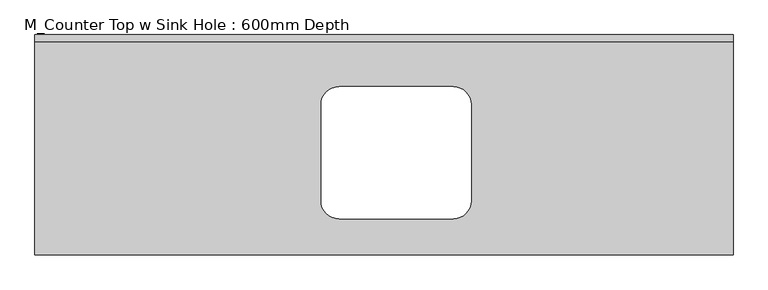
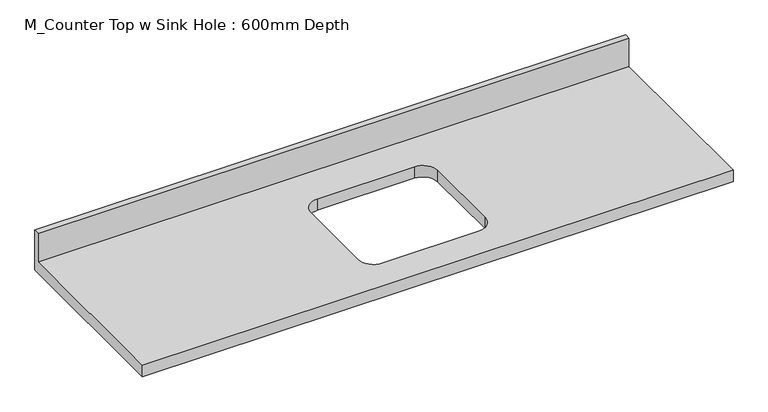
"""IFC4 building model written with IfcOpenShell, lengths in millimetres: furniture geometry, M_Counter Top w Sink Hole : 600mm Depth."""

from ifc_helpers import new_model, si_unit, frame, origin, place, context, project, spatial, polyline, circle_curve, source, transform, mapped, element, save
from ifc_brep_helpers import plane_surface, revolved_surface, advanced_brep


def m_counter_top_w_sink_hole_600mm_depth_5db41418(model_context):
    return source(origin(), model_context, "Body", "AdvancedBrep", [
        advanced_brep(
        [(-1200.4622951, -625.0, 900.0), (781.0377049, -625.0, 900.0), (781.0377049, -19.05, 900.0), (-1200.4622951, -19.05, 900.0), (-337.3622951, -147.3, 900.0), (-13.5622951, -147.3, 900.0), (37.2377049, -198.1, 900.0), (37.2377049, -471.9, 900.0), (-13.5622951, -522.7, 900.0), (-337.3622951, -522.7, 900.0), (-388.1622951, -471.9, 900.0), (-388.1622951, -198.1, 900.0), (781.0377049, 0.0, 860.0), (781.0377049, -625.0, 860.0), (-1200.4622951, -625.0, 860.0), (-1200.4622951, 0.0, 860.0), (-13.5622951, -147.3, 860.0), (-337.3622951, -147.3, 860.0), (-388.1622951, -198.1, 860.0), (-388.1622951, -471.9, 860.0), (-337.3622951, -522.7, 860.0), (-13.5622951, -522.7, 860.0), (37.2377049, -471.9, 860.0), (37.2377049, -198.1, 860.0), (-1200.4622951, 0.0, 1001.6), (781.0377049, 0.0, 1001.6), (-1200.4622951, -19.05, 1001.6), (781.0377049, -19.05, 1001.6)],
        [
            (0, 1),
            (1, 2),
            (2, 3),
            (3, 0),
            (4, 5),
            (5, 6, circle_curve(frame((-13.5622951, -198.1, 900.0), z_axis=(0.0, 0.0, -1.0), x_axis=(1.0, 0.0, 0.0)), 50.8)),
            (6, 7),
            (7, 8, circle_curve(frame((-13.5622951, -471.9, 900.0), z_axis=(0.0, 0.0, -1.0), x_axis=(1.0, 0.0, 0.0)), 50.8)),
            (8, 9),
            (9, 10, circle_curve(frame((-337.3622951, -471.9, 900.0), z_axis=(0.0, 0.0, -1.0), x_axis=(1.0, 0.0, 0.0)), 50.8)),
            (10, 11),
            (11, 4, circle_curve(frame((-337.3622951, -198.1, 900.0), z_axis=(0.0, 0.0, -1.0), x_axis=(1.0, 0.0, 0.0)), 50.8)),
            (12, 13),
            (13, 14),
            (14, 15),
            (15, 12),
            (16, 17),
            (17, 18, circle_curve(frame((-337.3622951, -198.1, 860.0), z_axis=(0.0, 0.0, 1.0), x_axis=(1.0, 0.0, 0.0)), 50.8)),
            (18, 19),
            (19, 20, circle_curve(frame((-337.3622951, -471.9, 860.0), z_axis=(0.0, 0.0, 1.0), x_axis=(1.0, 0.0, 0.0)), 50.8)),
            (20, 21),
            (21, 22, circle_curve(frame((-13.5622951, -471.9, 860.0), z_axis=(0.0, 0.0, 1.0), x_axis=(1.0, 0.0, 0.0)), 50.8)),
            (22, 23),
            (23, 16, circle_curve(frame((-13.5622951, -198.1, 860.0), z_axis=(0.0, 0.0, 1.0), x_axis=(1.0, 0.0, 0.0)), 50.8)),
            (15, 24),
            (24, 25),
            (25, 12),
            (14, 0),
            (3, 26),
            (26, 24),
            (13, 1),
            (25, 27),
            (27, 2),
            (26, 27),
            (4, 17),
            (16, 5),
            (11, 18),
            (10, 19),
            (9, 20),
            (8, 21),
            (7, 22),
            (6, 23),
        ],
        [
            plane_surface(frame((-1200.4622951, 0.0, 900.0), z_axis=(0.0, 0.0, 1.0), x_axis=(-1.0, 0.0, 0.0))),
            plane_surface(frame((-1200.4622951, 0.0, 860.0), z_axis=(0.0, 0.0, -1.0), x_axis=(1.0, 0.0, 0.0))),
            plane_surface(frame((781.0377049, 0.0, 900.0), z_axis=(0.0, 1.0, 0.0), x_axis=(0.0, 0.0, -1.0))),
            plane_surface(frame((-1200.4622951, 0.0, 900.0), z_axis=(-1.0, 0.0, 0.0), x_axis=(0.0, 0.0, -1.0))),
            plane_surface(frame((-1200.4622951, -625.0, 900.0), z_axis=(0.0, -1.0, 0.0), x_axis=(0.0, 0.0, -1.0))),
            plane_surface(frame((781.0377049, -625.0, 900.0), z_axis=(1.0, 0.0, 0.0), x_axis=(0.0, 0.0, -1.0))),
            plane_surface(frame((-1200.4622951, 0.0, 1001.6), z_axis=(0.0, 0.0, 1.0), x_axis=(0.0, -1.0, 0.0))),
            plane_surface(frame((-1200.4622951, -19.05, 1001.6), z_axis=(0.0, -1.0, 0.0), x_axis=(0.0, 0.0, -1.0))),
            plane_surface(frame((-13.5622951, -147.3, 900.0), z_axis=(0.0, -1.0, 0.0), x_axis=(0.0, 0.0, -1.0))),
            revolved_surface(polyline([(-286.5622951, -198.1, 900.0), (-286.5622951, -198.1, 860.0)]), (-337.3622951, -198.1, 860.0), (0.0, 0.0, 1.0)),
            plane_surface(frame((-388.1622951, -198.1, 900.0), z_axis=(1.0, 0.0, 0.0), x_axis=(0.0, 0.0, -1.0))),
            revolved_surface(polyline([(-286.5622951, -471.9, 900.0), (-286.5622951, -471.9, 860.0)]), (-337.3622951, -471.9, 860.0), (0.0, 0.0, 1.0)),
            plane_surface(frame((-337.3622951, -522.7, 900.0), z_axis=(0.0, 1.0, 0.0), x_axis=(0.0, 0.0, -1.0))),
            revolved_surface(polyline([(37.2377049, -471.9, 900.0), (37.2377049, -471.9, 860.0)]), (-13.5622951, -471.9, 860.0), (0.0, 0.0, 1.0)),
            plane_surface(frame((37.2377049, -471.9, 900.0), z_axis=(-1.0, 0.0, 0.0), x_axis=(0.0, 0.0, -1.0))),
            revolved_surface(polyline([(37.2377049, -198.1, 900.0), (37.2377049, -198.1, 860.0)]), (-13.5622951, -198.1, 860.0), (0.0, 0.0, 1.0)),
        ],
        [
            (0, [[1, 2, 3, 4], [5, 6, 7, 8, 9, 10, 11, 12]]),
            (1, [[13, 14, 15, 16], [17, 18, 19, 20, 21, 22, 23, 24]]),
            (2, [[-16, 25, 26, 27]]),
            (3, [[-15, 28, -4, 29, 30, -25]]),
            (4, [[-1, -28, -14, 31]]),
            (5, [[-13, -27, 32, 33, -2, -31]]),
            (6, [[-30, 34, -32, -26]]),
            (7, [[-34, -29, -3, -33]]),
            (8, [[35, -17, 36, -5]]),
            (9, [[-35, -12, 37, -18]]),
            (10, [[-37, -11, 38, -19]]),
            (11, [[-38, -10, 39, -20]]),
            (12, [[-39, -9, 40, -21]]),
            (13, [[-40, -8, 41, -22]]),
            (14, [[-41, -7, 42, -23]]),
            (15, [[-36, -24, -42, -6]]),
        ],
    ),
    ])


if __name__ == "__main__":
    model = new_model("IFC4")
    model_context = context("Model", 3, world=origin())
    ifc_project = project(units=[si_unit("LENGTHUNIT", "METRE", prefix="MILLI")], contexts=[model_context])
    site = spatial("IfcSite", under=ifc_project)
    building = spatial("IfcBuilding", under=site)
    placement = place(None, origin())
    m_counter_top_w_sink_hole_600mm_depth_shape = m_counter_top_w_sink_hole_600mm_depth_5db41418(model_context)
    element("IfcFurniture", 1, ObjectType="M_Counter Top w Sink Hole : 600mm Depth", at=placement, inside=building, context=model_context, shape_type="MappedRepresentation", body=[
        mapped(m_counter_top_w_sink_hole_600mm_depth_shape, transform((0.0, 0.0, 0.0), x_axis=(1.0, 0.0, 0.0), y_axis=(0.0, 1.0, 0.0), z_axis=(0.0, 0.0, 1.0))),
    ])
    save(model, "model.ifc")
